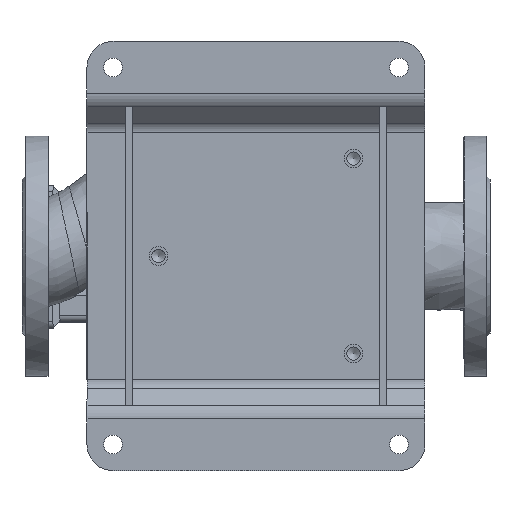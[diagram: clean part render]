
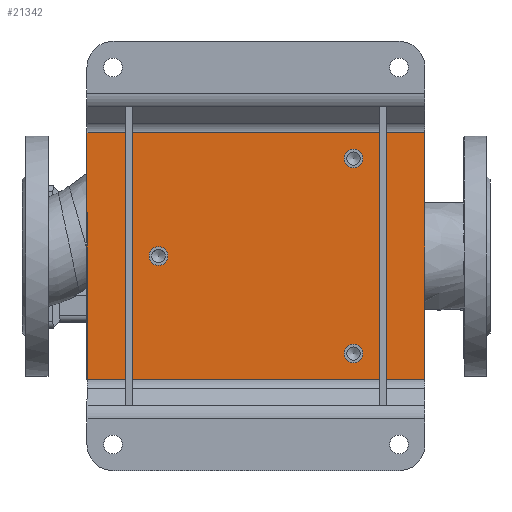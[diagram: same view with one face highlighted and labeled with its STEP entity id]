
A CAD part, top view. The second image highlights one B-rep face of the part: STEP entity #21342.
In plain terms, the highlighted planar face has unit normal (0, 0, 1) as drawn and (0, -1, 0) by its records, which use the part's own axes.
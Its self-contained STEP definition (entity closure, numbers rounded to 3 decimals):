
#1 = DIRECTION ( 'NONE',  ( 0., -1., 0. ) ) ;
#132 = VERTEX_POINT ( 'NONE', #9441 ) ;
#539 = DIRECTION ( 'NONE',  ( 0., 0., -1. ) ) ;
#725 = EDGE_LOOP ( 'NONE', ( #2931, #35987, #12848, #26705 ) ) ;
#787 = VECTOR ( 'NONE', #33392, 1000. ) ;
#2714 = VERTEX_POINT ( 'NONE', #20858 ) ;
#2931 = ORIENTED_EDGE ( 'NONE', *, *, #33940, .F. ) ;
#3212 = LINE ( 'NONE', #17245, #11068 ) ;
#3890 = CARTESIAN_POINT ( 'NONE',  ( 0., -5., 0. ) ) ;
#4446 = DIRECTION ( 'NONE',  ( 0., -1., 0. ) ) ;
#4533 = LINE ( 'NONE', #5212, #15247 ) ;
#5212 = CARTESIAN_POINT ( 'NONE',  ( -95., -5., 130. ) ) ;
#6446 = DIRECTION ( 'NONE',  ( 0., 0., -1. ) ) ;
#6596 = AXIS2_PLACEMENT_3D ( 'NONE', #32021, #4446, #539 ) ;
#6682 = FACE_BOUND ( 'NONE', #37631, .T. ) ;
#7037 = EDGE_CURVE ( 'NONE', #8942, #8942, #38155, .T. ) ;
#8264 = ORIENTED_EDGE ( 'NONE', *, *, #29504, .F. ) ;
#8942 = VERTEX_POINT ( 'NONE', #30068 ) ;
#9441 = CARTESIAN_POINT ( 'NONE',  ( -95., -5., 130. ) ) ;
#10208 = VERTEX_POINT ( 'NONE', #10215 ) ;
#10215 = CARTESIAN_POINT ( 'NONE',  ( 95., -5., 130. ) ) ;
#10379 = PLANE ( 'NONE',  #44009 ) ;
#10539 = EDGE_CURVE ( 'NONE', #2714, #2714, #14407, .T. ) ;
#10587 = DIRECTION ( 'NONE',  ( 0., 0., 1. ) ) ;
#11068 = VECTOR ( 'NONE', #10587, 1000. ) ;
#11209 = CARTESIAN_POINT ( 'NONE',  ( -75., -5., 67.75 ) ) ;
#11224 = DIRECTION ( 'NONE',  ( 1., 0., 0. ) ) ;
#12767 = CARTESIAN_POINT ( 'NONE',  ( -75., -5., 75. ) ) ;
#12848 = ORIENTED_EDGE ( 'NONE', *, *, #18322, .F. ) ;
#13190 = LINE ( 'NONE', #17084, #40930 ) ;
#13220 = DIRECTION ( 'NONE',  ( 0., 0., -1. ) ) ;
#13533 = CARTESIAN_POINT ( 'NONE',  ( 95., -5., -130. ) ) ;
#14035 = FACE_BOUND ( 'NONE', #33435, .T. ) ;
#14407 = CIRCLE ( 'NONE', #40096, 7.25 ) ;
#15247 = VECTOR ( 'NONE', #11224, 1000. ) ;
#16635 = DIRECTION ( 'NONE',  ( 0., 0., -1. ) ) ;
#17084 = CARTESIAN_POINT ( 'NONE',  ( 95., -5., 130. ) ) ;
#17245 = CARTESIAN_POINT ( 'NONE',  ( -95., -5., 130. ) ) ;
#18322 = EDGE_CURVE ( 'NONE', #19019, #132, #3212, .T. ) ;
#19019 = VERTEX_POINT ( 'NONE', #32269 ) ;
#19197 = EDGE_CURVE ( 'NONE', #27239, #19019, #40540, .T. ) ;
#20629 = AXIS2_PLACEMENT_3D ( 'NONE', #12767, #37796, #13220 ) ;
#20858 = CARTESIAN_POINT ( 'NONE',  ( 0., -5., -82.25 ) ) ;
#21342 = ADVANCED_FACE ( 'NONE', ( #38163, #6682, #14035, #34689 ), #10379, .T. ) ;
#21820 = DIRECTION ( 'NONE',  ( 0., -1., 0. ) ) ;
#23422 = EDGE_CURVE ( 'NONE', #132, #10208, #4533, .T. ) ;
#26705 = ORIENTED_EDGE ( 'NONE', *, *, #19197, .F. ) ;
#27239 = VERTEX_POINT ( 'NONE', #13533 ) ;
#28057 = DIRECTION ( 'NONE',  ( 0., 0., -1. ) ) ;
#28271 = CARTESIAN_POINT ( 'NONE',  ( 0., -5., -75. ) ) ;
#29504 = EDGE_CURVE ( 'NONE', #38776, #38776, #40444, .T. ) ;
#30068 = CARTESIAN_POINT ( 'NONE',  ( 75., -5., 67.75 ) ) ;
#30327 = EDGE_LOOP ( 'NONE', ( #31573 ) ) ;
#31573 = ORIENTED_EDGE ( 'NONE', *, *, #7037, .F. ) ;
#32021 = CARTESIAN_POINT ( 'NONE',  ( 75., -5., 75. ) ) ;
#32269 = CARTESIAN_POINT ( 'NONE',  ( -95., -5., -130. ) ) ;
#33392 = DIRECTION ( 'NONE',  ( -1., 0., 0. ) ) ;
#33435 = EDGE_LOOP ( 'NONE', ( #8264 ) ) ;
#33765 = ORIENTED_EDGE ( 'NONE', *, *, #10539, .F. ) ;
#33940 = EDGE_CURVE ( 'NONE', #10208, #27239, #13190, .T. ) ;
#34689 = FACE_OUTER_BOUND ( 'NONE', #725, .T. ) ;
#35987 = ORIENTED_EDGE ( 'NONE', *, *, #23422, .F. ) ;
#36624 = CARTESIAN_POINT ( 'NONE',  ( -95., -5., -130. ) ) ;
#37631 = EDGE_LOOP ( 'NONE', ( #33765 ) ) ;
#37796 = DIRECTION ( 'NONE',  ( 0., -1., 0. ) ) ;
#38155 = CIRCLE ( 'NONE', #6596, 7.25 ) ;
#38163 = FACE_BOUND ( 'NONE', #30327, .T. ) ;
#38776 = VERTEX_POINT ( 'NONE', #11209 ) ;
#40096 = AXIS2_PLACEMENT_3D ( 'NONE', #28271, #21820, #28057 ) ;
#40444 = CIRCLE ( 'NONE', #20629, 7.25 ) ;
#40540 = LINE ( 'NONE', #36624, #787 ) ;
#40930 = VECTOR ( 'NONE', #16635, 1000. ) ;
#44009 = AXIS2_PLACEMENT_3D ( 'NONE', #3890, #1, #6446 ) ;
